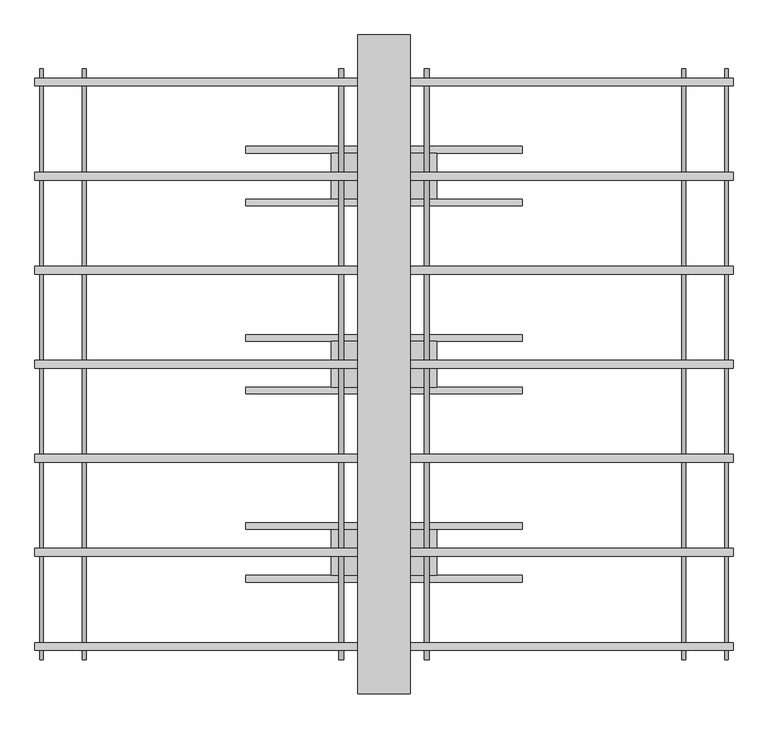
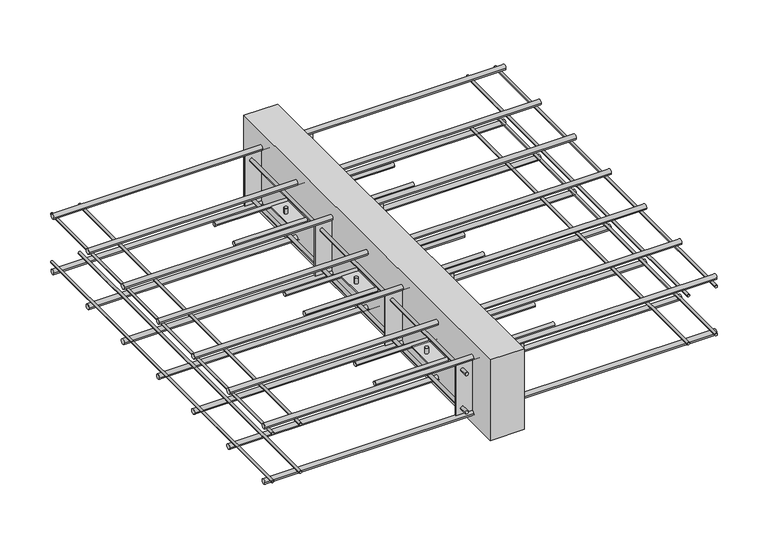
"""IFC4 building model written with IfcOpenShell, lengths in millimetres: fastener geometry, ACINOXplus_Typenreihe_M : ME+ S3."""

from ifc_helpers import new_model, si_unit, point, frame, frame_2d, origin, place, context, project, spatial, polyline, circle_curve, trimmed, segment, composite_curve, outline, extrude, source, transform, mapped, element, save
from ifc_brep_helpers import plane_surface, cylinder_surface, advanced_brep


def fastener_cb592778(model_context):
    return source(origin(), model_context, "Body", "SolidModel", [
        extrude(outline(composite_curve([segment(trimmed(circle_curve(frame_2d((-40.0, -104.5)), 5.0), [point((-45.0, -104.5))], [point((-35.0, -104.5))], False, "CARTESIAN"), True, "CONTINUOUS"), segment(trimmed(circle_curve(frame_2d((-40.0, -104.5)), 5.0), [point((-35.0, -104.5))], [point((-45.0, -104.5))], False, "CARTESIAN"), True, "CONTINUOUS")], self_intersect=False)), frame((-210.0, 0.0, 0.0), z_axis=(1.0, 0.0, 0.0), x_axis=(0.0, 1.0, 0.0)), (0.0, 0.0, 1.0), 420.0),
        extrude(outline(composite_curve([segment(trimmed(circle_curve(frame_2d((40.0, -104.5)), 5.0), [point((35.0, -104.5))], [point((45.0, -104.5))], False, "CARTESIAN"), True, "CONTINUOUS"), segment(trimmed(circle_curve(frame_2d((40.0, -104.5)), 5.0), [point((45.0, -104.5))], [point((35.0, -104.5))], False, "CARTESIAN"), True, "CONTINUOUS")], self_intersect=False)), frame((-210.0, 0.0, 0.0), z_axis=(1.0, 0.0, 0.0), x_axis=(0.0, 1.0, 0.0)), (0.0, 0.0, 1.0), 420.0),
        advanced_brep(
        [(-69.0, 0.0, -89.5), (-61.0, 0.0, -89.5), (61.0, 0.0, -89.5), (69.0, 0.0, -89.5), (-69.0, 0.0, -119.5), (-61.0, 0.0, -119.5), (61.0, 0.0, -119.5), (69.0, 0.0, -119.5), (-69.0, 0.0, -103.0), (-61.0, 0.0, -103.0), (-61.0, 0.0, -106.0), (-69.0, 0.0, -106.0), (61.0, 0.0, -103.0), (69.0, 0.0, -103.0), (69.0, 0.0, -106.0), (61.0, 0.0, -106.0), (80.0, 35.0, -103.0), (-80.0, 35.0, -103.0), (-80.0, -35.0, -103.0), (80.0, -35.0, -103.0), (80.0, 35.0, -106.0), (80.0, -35.0, -106.0), (-80.0, -35.0, -106.0), (-80.0, 35.0, -106.0)],
        [
            (0, 1, circle_curve(frame((-65.0, 0.0, -89.5), z_axis=(0.0, 0.0, 1.0), x_axis=(1.0, 0.0, 0.0)), 4.0)),
            (1, 0, circle_curve(frame((-65.0, 0.0, -89.5), z_axis=(0.0, 0.0, 1.0), x_axis=(1.0, 0.0, 0.0)), 4.0)),
            (2, 3, circle_curve(frame((65.0, 0.0, -89.5), z_axis=(0.0, 0.0, 1.0), x_axis=(1.0, 0.0, 0.0)), 4.0)),
            (3, 2, circle_curve(frame((65.0, 0.0, -89.5), z_axis=(0.0, 0.0, 1.0), x_axis=(1.0, 0.0, 0.0)), 4.0)),
            (4, 5, circle_curve(frame((-65.0, 0.0, -119.5), z_axis=(0.0, 0.0, -1.0), x_axis=(1.0, 0.0, 0.0)), 4.0)),
            (5, 4, circle_curve(frame((-65.0, 0.0, -119.5), z_axis=(0.0, 0.0, -1.0), x_axis=(1.0, 0.0, 0.0)), 4.0)),
            (6, 7, circle_curve(frame((65.0, 0.0, -119.5), z_axis=(0.0, 0.0, -1.0), x_axis=(1.0, 0.0, 0.0)), 4.0)),
            (7, 6, circle_curve(frame((65.0, 0.0, -119.5), z_axis=(0.0, 0.0, -1.0), x_axis=(1.0, 0.0, 0.0)), 4.0)),
            (0, 8),
            (8, 9, circle_curve(frame((-65.0, 0.0, -103.0), z_axis=(0.0, 0.0, 1.0), x_axis=(1.0, 0.0, 0.0)), 4.0)),
            (9, 1),
            (5, 10),
            (10, 11, circle_curve(frame((-65.0, 0.0, -106.0), z_axis=(0.0, 0.0, -1.0), x_axis=(1.0, 0.0, 0.0)), 4.0)),
            (11, 4),
            (9, 8, circle_curve(frame((-65.0, 0.0, -103.0), z_axis=(0.0, 0.0, 1.0), x_axis=(1.0, 0.0, 0.0)), 4.0)),
            (11, 10, circle_curve(frame((-65.0, 0.0, -106.0), z_axis=(0.0, 0.0, -1.0), x_axis=(1.0, 0.0, 0.0)), 4.0)),
            (2, 12),
            (12, 13, circle_curve(frame((65.0, 0.0, -103.0), z_axis=(0.0, 0.0, 1.0), x_axis=(1.0, 0.0, 0.0)), 4.0)),
            (13, 3),
            (7, 14),
            (14, 15, circle_curve(frame((65.0, 0.0, -106.0), z_axis=(0.0, 0.0, -1.0), x_axis=(1.0, 0.0, 0.0)), 4.0)),
            (15, 6),
            (13, 12, circle_curve(frame((65.0, 0.0, -103.0), z_axis=(0.0, 0.0, 1.0), x_axis=(1.0, 0.0, 0.0)), 4.0)),
            (15, 14, circle_curve(frame((65.0, 0.0, -106.0), z_axis=(0.0, 0.0, -1.0), x_axis=(1.0, 0.0, 0.0)), 4.0)),
            (16, 17),
            (17, 18),
            (18, 19),
            (19, 16),
            (20, 21),
            (21, 22),
            (22, 23),
            (23, 20),
            (16, 20),
            (23, 17),
            (22, 18),
            (21, 19),
        ],
        [
            plane_surface(frame((-61.0, 0.0, -89.5), z_axis=(0.0, 0.0, 1.0), x_axis=(0.0, 1.0, 0.0))),
            plane_surface(frame((-61.0, 0.0, -119.5), z_axis=(0.0, 0.0, -1.0), x_axis=(0.0, -1.0, 0.0))),
            cylinder_surface(frame((-65.0, 0.0, -119.5), z_axis=(0.0, 0.0, 1.0), x_axis=(1.0, 0.0, 0.0)), 4.0),
            cylinder_surface(frame((65.0, 0.0, -104.5), z_axis=(0.0, 0.0, 1.0), x_axis=(1.0, 0.0, 0.0)), 4.0),
            plane_surface(frame((-80.0, 35.0, -103.0), z_axis=(0.0, 0.0, 1.0), x_axis=(-1.0, 0.0, 0.0))),
            plane_surface(frame((-80.0, 35.0, -106.0), z_axis=(0.0, 0.0, -1.0), x_axis=(1.0, 0.0, 0.0))),
            plane_surface(frame((80.0, 35.0, -103.0), z_axis=(0.0, 1.0, 0.0), x_axis=(0.0, 0.0, -1.0))),
            plane_surface(frame((-80.0, 35.0, -103.0), z_axis=(-1.0, 0.0, 0.0), x_axis=(0.0, 0.0, -1.0))),
            plane_surface(frame((-80.0, -35.0, -103.0), z_axis=(0.0, -1.0, 0.0), x_axis=(0.0, 0.0, -1.0))),
            plane_surface(frame((80.0, -35.0, -103.0), z_axis=(1.0, 0.0, 0.0), x_axis=(0.0, 0.0, -1.0))),
        ],
        [
            (0, [[1, 2]]),
            (0, [[3, 4]]),
            (1, [[5, 6]]),
            (1, [[7, 8]]),
            (2, [[-1, 9, 10, 11]]),
            (2, [[-6, 12, 13, 14]]),
            (2, [[-2, -11, 15, -9]]),
            (2, [[-5, -14, 16, -12]]),
            (3, [[-3, 17, 18, 19]]),
            (3, [[-8, 20, 21, 22]]),
            (3, [[-4, -19, 23, -17]]),
            (3, [[-7, -22, 24, -20]]),
            (4, [[25, 26, 27, 28], [-10, -15], [-18, -23]]),
            (5, [[29, 30, 31, 32], [-13, -16], [-21, -24]]),
            (6, [[-25, 33, -32, 34]]),
            (7, [[-26, -34, -31, 35]]),
            (8, [[-27, -35, -30, 36]]),
            (9, [[-28, -36, -29, -33]]),
        ],
    ),
        extrude(outline(composite_curve([segment(trimmed(circle_curve(frame_2d((-325.7142857, -104.5)), 5.0), [point((-330.7142857, -104.5))], [point((-320.7142857, -104.5))], False, "CARTESIAN"), True, "CONTINUOUS"), segment(trimmed(circle_curve(frame_2d((-325.7142857, -104.5)), 5.0), [point((-320.7142857, -104.5))], [point((-330.7142857, -104.5))], False, "CARTESIAN"), True, "CONTINUOUS")], self_intersect=False)), frame((-210.0, 0.0, 0.0), z_axis=(1.0, 0.0, 0.0), x_axis=(0.0, 1.0, 0.0)), (0.0, 0.0, 1.0), 420.0),
        extrude(outline(composite_curve([segment(trimmed(circle_curve(frame_2d((-245.7142857, -104.5)), 5.0), [point((-250.7142857, -104.5))], [point((-240.7142857, -104.5))], False, "CARTESIAN"), True, "CONTINUOUS"), segment(trimmed(circle_curve(frame_2d((-245.7142857, -104.5)), 5.0), [point((-240.7142857, -104.5))], [point((-250.7142857, -104.5))], False, "CARTESIAN"), True, "CONTINUOUS")], self_intersect=False)), frame((-210.0, 0.0, 0.0), z_axis=(1.0, 0.0, 0.0), x_axis=(0.0, 1.0, 0.0)), (0.0, 0.0, 1.0), 420.0),
        advanced_brep(
        [(-69.0, -285.7142857, -89.5), (-61.0, -285.7142857, -89.5), (61.0, -285.7142857, -89.5), (69.0, -285.7142857, -89.5), (-69.0, -285.7142857, -119.5), (-61.0, -285.7142857, -119.5), (61.0, -285.7142857, -119.5), (69.0, -285.7142857, -119.5), (-69.0, -285.7142857, -103.0), (-61.0, -285.7142857, -103.0), (-61.0, -285.7142857, -106.0), (-69.0, -285.7142857, -106.0), (61.0, -285.7142857, -103.0), (69.0, -285.7142857, -103.0), (69.0, -285.7142857, -106.0), (61.0, -285.7142857, -106.0), (80.0, -250.7142857, -103.0), (-80.0, -250.7142857, -103.0), (-80.0, -320.7142857, -103.0), (80.0, -320.7142857, -103.0), (80.0, -250.7142857, -106.0), (80.0, -320.7142857, -106.0), (-80.0, -320.7142857, -106.0), (-80.0, -250.7142857, -106.0)],
        [
            (0, 1, circle_curve(frame((-65.0, -285.7142857, -89.5), z_axis=(0.0, 0.0, 1.0), x_axis=(1.0, 0.0, 0.0)), 4.0)),
            (1, 0, circle_curve(frame((-65.0, -285.7142857, -89.5), z_axis=(0.0, 0.0, 1.0), x_axis=(1.0, 0.0, 0.0)), 4.0)),
            (2, 3, circle_curve(frame((65.0, -285.7142857, -89.5), z_axis=(0.0, 0.0, 1.0), x_axis=(1.0, 0.0, 0.0)), 4.0)),
            (3, 2, circle_curve(frame((65.0, -285.7142857, -89.5), z_axis=(0.0, 0.0, 1.0), x_axis=(1.0, 0.0, 0.0)), 4.0)),
            (4, 5, circle_curve(frame((-65.0, -285.7142857, -119.5), z_axis=(0.0, 0.0, -1.0), x_axis=(1.0, 0.0, 0.0)), 4.0)),
            (5, 4, circle_curve(frame((-65.0, -285.7142857, -119.5), z_axis=(0.0, 0.0, -1.0), x_axis=(1.0, 0.0, 0.0)), 4.0)),
            (6, 7, circle_curve(frame((65.0, -285.7142857, -119.5), z_axis=(0.0, 0.0, -1.0), x_axis=(1.0, 0.0, 0.0)), 4.0)),
            (7, 6, circle_curve(frame((65.0, -285.7142857, -119.5), z_axis=(0.0, 0.0, -1.0), x_axis=(1.0, 0.0, 0.0)), 4.0)),
            (0, 8),
            (8, 9, circle_curve(frame((-65.0, -285.7142857, -103.0), z_axis=(0.0, 0.0, 1.0), x_axis=(1.0, 0.0, 0.0)), 4.0)),
            (9, 1),
            (5, 10),
            (10, 11, circle_curve(frame((-65.0, -285.7142857, -106.0), z_axis=(0.0, 0.0, -1.0), x_axis=(1.0, 0.0, 0.0)), 4.0)),
            (11, 4),
            (9, 8, circle_curve(frame((-65.0, -285.7142857, -103.0), z_axis=(0.0, 0.0, 1.0), x_axis=(1.0, 0.0, 0.0)), 4.0)),
            (11, 10, circle_curve(frame((-65.0, -285.7142857, -106.0), z_axis=(0.0, 0.0, -1.0), x_axis=(1.0, 0.0, 0.0)), 4.0)),
            (2, 12),
            (12, 13, circle_curve(frame((65.0, -285.7142857, -103.0), z_axis=(0.0, 0.0, 1.0), x_axis=(1.0, 0.0, 0.0)), 4.0)),
            (13, 3),
            (7, 14),
            (14, 15, circle_curve(frame((65.0, -285.7142857, -106.0), z_axis=(0.0, 0.0, -1.0), x_axis=(1.0, 0.0, 0.0)), 4.0)),
            (15, 6),
            (13, 12, circle_curve(frame((65.0, -285.7142857, -103.0), z_axis=(0.0, 0.0, 1.0), x_axis=(1.0, 0.0, 0.0)), 4.0)),
            (15, 14, circle_curve(frame((65.0, -285.7142857, -106.0), z_axis=(0.0, 0.0, -1.0), x_axis=(1.0, 0.0, 0.0)), 4.0)),
            (16, 17),
            (17, 18),
            (18, 19),
            (19, 16),
            (20, 21),
            (21, 22),
            (22, 23),
            (23, 20),
            (16, 20),
            (23, 17),
            (22, 18),
            (21, 19),
        ],
        [
            plane_surface(frame((-61.0, -285.7142857, -89.5), z_axis=(0.0, 0.0, 1.0), x_axis=(0.0, 1.0, 0.0))),
            plane_surface(frame((-61.0, -285.7142857, -119.5), z_axis=(0.0, 0.0, -1.0), x_axis=(0.0, -1.0, 0.0))),
            cylinder_surface(frame((-65.0, -285.7142857, -119.5), z_axis=(0.0, 0.0, 1.0), x_axis=(1.0, 0.0, 0.0)), 4.0),
            cylinder_surface(frame((65.0, -285.7142857, -104.5), z_axis=(0.0, 0.0, 1.0), x_axis=(1.0, 0.0, 0.0)), 4.0),
            plane_surface(frame((-80.0, -250.7142857, -103.0), z_axis=(0.0, 0.0, 1.0), x_axis=(-1.0, 0.0, 0.0))),
            plane_surface(frame((-80.0, -250.7142857, -106.0), z_axis=(0.0, 0.0, -1.0), x_axis=(1.0, 0.0, 0.0))),
            plane_surface(frame((80.0, -250.7142857, -103.0), z_axis=(0.0, 1.0, 0.0), x_axis=(0.0, 0.0, -1.0))),
            plane_surface(frame((-80.0, -250.7142857, -103.0), z_axis=(-1.0, 0.0, 0.0), x_axis=(0.0, 0.0, -1.0))),
            plane_surface(frame((-80.0, -320.7142857, -103.0), z_axis=(0.0, -1.0, 0.0), x_axis=(0.0, 0.0, -1.0))),
            plane_surface(frame((80.0, -320.7142857, -103.0), z_axis=(1.0, 0.0, 0.0), x_axis=(0.0, 0.0, -1.0))),
        ],
        [
            (0, [[1, 2]]),
            (0, [[3, 4]]),
            (1, [[5, 6]]),
            (1, [[7, 8]]),
            (2, [[-1, 9, 10, 11]]),
            (2, [[-6, 12, 13, 14]]),
            (2, [[-2, -11, 15, -9]]),
            (2, [[-5, -14, 16, -12]]),
            (3, [[-3, 17, 18, 19]]),
            (3, [[-8, 20, 21, 22]]),
            (3, [[-4, -19, 23, -17]]),
            (3, [[-7, -22, 24, -20]]),
            (4, [[25, 26, 27, 28], [-10, -15], [-18, -23]]),
            (5, [[29, 30, 31, 32], [-13, -16], [-21, -24]]),
            (6, [[-25, 33, -32, 34]]),
            (7, [[-26, -34, -31, 35]]),
            (8, [[-27, -35, -30, 36]]),
            (9, [[-28, -36, -29, -33]]),
        ],
    ),
        extrude(outline(composite_curve([segment(trimmed(circle_curve(frame_2d((245.7142857, -104.5)), 5.0), [point((240.7142857, -104.5))], [point((250.7142857, -104.5))], False, "CARTESIAN"), True, "CONTINUOUS"), segment(trimmed(circle_curve(frame_2d((245.7142857, -104.5)), 5.0), [point((250.7142857, -104.5))], [point((240.7142857, -104.5))], False, "CARTESIAN"), True, "CONTINUOUS")], self_intersect=False)), frame((-210.0, 0.0, 0.0), z_axis=(1.0, 0.0, 0.0), x_axis=(0.0, 1.0, 0.0)), (0.0, 0.0, 1.0), 420.0),
        extrude(outline(composite_curve([segment(trimmed(circle_curve(frame_2d((325.7142857, -104.5)), 5.0), [point((320.7142857, -104.5))], [point((330.7142857, -104.5))], False, "CARTESIAN"), True, "CONTINUOUS"), segment(trimmed(circle_curve(frame_2d((325.7142857, -104.5)), 5.0), [point((330.7142857, -104.5))], [point((320.7142857, -104.5))], False, "CARTESIAN"), True, "CONTINUOUS")], self_intersect=False)), frame((-210.0, 0.0, 0.0), z_axis=(1.0, 0.0, 0.0), x_axis=(0.0, 1.0, 0.0)), (0.0, 0.0, 1.0), 420.0),
        advanced_brep(
        [(-69.0, 285.7142857, -89.5), (-61.0, 285.7142857, -89.5), (61.0, 285.7142857, -89.5), (69.0, 285.7142857, -89.5), (-69.0, 285.7142857, -119.5), (-61.0, 285.7142857, -119.5), (61.0, 285.7142857, -119.5), (69.0, 285.7142857, -119.5), (-69.0, 285.7142857, -103.0), (-61.0, 285.7142857, -103.0), (-61.0, 285.7142857, -106.0), (-69.0, 285.7142857, -106.0), (61.0, 285.7142857, -103.0), (69.0, 285.7142857, -103.0), (69.0, 285.7142857, -106.0), (61.0, 285.7142857, -106.0), (80.0, 320.7142857, -103.0), (-80.0, 320.7142857, -103.0), (-80.0, 250.7142857, -103.0), (80.0, 250.7142857, -103.0), (80.0, 320.7142857, -106.0), (80.0, 250.7142857, -106.0), (-80.0, 250.7142857, -106.0), (-80.0, 320.7142857, -106.0)],
        [
            (0, 1, circle_curve(frame((-65.0, 285.7142857, -89.5), z_axis=(0.0, 0.0, 1.0), x_axis=(1.0, 0.0, 0.0)), 4.0)),
            (1, 0, circle_curve(frame((-65.0, 285.7142857, -89.5), z_axis=(0.0, 0.0, 1.0), x_axis=(1.0, 0.0, 0.0)), 4.0)),
            (2, 3, circle_curve(frame((65.0, 285.7142857, -89.5), z_axis=(0.0, 0.0, 1.0), x_axis=(1.0, 0.0, 0.0)), 4.0)),
            (3, 2, circle_curve(frame((65.0, 285.7142857, -89.5), z_axis=(0.0, 0.0, 1.0), x_axis=(1.0, 0.0, 0.0)), 4.0)),
            (4, 5, circle_curve(frame((-65.0, 285.7142857, -119.5), z_axis=(0.0, 0.0, -1.0), x_axis=(1.0, 0.0, 0.0)), 4.0)),
            (5, 4, circle_curve(frame((-65.0, 285.7142857, -119.5), z_axis=(0.0, 0.0, -1.0), x_axis=(1.0, 0.0, 0.0)), 4.0)),
            (6, 7, circle_curve(frame((65.0, 285.7142857, -119.5), z_axis=(0.0, 0.0, -1.0), x_axis=(1.0, 0.0, 0.0)), 4.0)),
            (7, 6, circle_curve(frame((65.0, 285.7142857, -119.5), z_axis=(0.0, 0.0, -1.0), x_axis=(1.0, 0.0, 0.0)), 4.0)),
            (0, 8),
            (8, 9, circle_curve(frame((-65.0, 285.7142857, -103.0), z_axis=(0.0, 0.0, 1.0), x_axis=(1.0, 0.0, 0.0)), 4.0)),
            (9, 1),
            (5, 10),
            (10, 11, circle_curve(frame((-65.0, 285.7142857, -106.0), z_axis=(0.0, 0.0, -1.0), x_axis=(1.0, 0.0, 0.0)), 4.0)),
            (11, 4),
            (9, 8, circle_curve(frame((-65.0, 285.7142857, -103.0), z_axis=(0.0, 0.0, 1.0), x_axis=(1.0, 0.0, 0.0)), 4.0)),
            (11, 10, circle_curve(frame((-65.0, 285.7142857, -106.0), z_axis=(0.0, 0.0, -1.0), x_axis=(1.0, 0.0, 0.0)), 4.0)),
            (2, 12),
            (12, 13, circle_curve(frame((65.0, 285.7142857, -103.0), z_axis=(0.0, 0.0, 1.0), x_axis=(1.0, 0.0, 0.0)), 4.0)),
            (13, 3),
            (7, 14),
            (14, 15, circle_curve(frame((65.0, 285.7142857, -106.0), z_axis=(0.0, 0.0, -1.0), x_axis=(1.0, 0.0, 0.0)), 4.0)),
            (15, 6),
            (13, 12, circle_curve(frame((65.0, 285.7142857, -103.0), z_axis=(0.0, 0.0, 1.0), x_axis=(1.0, 0.0, 0.0)), 4.0)),
            (15, 14, circle_curve(frame((65.0, 285.7142857, -106.0), z_axis=(0.0, 0.0, -1.0), x_axis=(1.0, 0.0, 0.0)), 4.0)),
            (16, 17),
            (17, 18),
            (18, 19),
            (19, 16),
            (20, 21),
            (21, 22),
            (22, 23),
            (23, 20),
            (16, 20),
            (23, 17),
            (22, 18),
            (21, 19),
        ],
        [
            plane_surface(frame((-61.0, 285.7142857, -89.5), z_axis=(0.0, 0.0, 1.0), x_axis=(0.0, 1.0, 0.0))),
            plane_surface(frame((-61.0, 285.7142857, -119.5), z_axis=(0.0, 0.0, -1.0), x_axis=(0.0, -1.0, 0.0))),
            cylinder_surface(frame((-65.0, 285.7142857, -119.5), z_axis=(0.0, 0.0, 1.0), x_axis=(1.0, 0.0, 0.0)), 4.0),
            cylinder_surface(frame((65.0, 285.7142857, -104.5), z_axis=(0.0, 0.0, 1.0), x_axis=(1.0, 0.0, 0.0)), 4.0),
            plane_surface(frame((-80.0, 320.7142857, -103.0), z_axis=(0.0, 0.0, 1.0), x_axis=(-1.0, 0.0, 0.0))),
            plane_surface(frame((-80.0, 320.7142857, -106.0), z_axis=(0.0, 0.0, -1.0), x_axis=(1.0, 0.0, 0.0))),
            plane_surface(frame((80.0, 320.7142857, -103.0), z_axis=(0.0, 1.0, 0.0), x_axis=(0.0, 0.0, -1.0))),
            plane_surface(frame((-80.0, 320.7142857, -103.0), z_axis=(-1.0, 0.0, 0.0), x_axis=(0.0, 0.0, -1.0))),
            plane_surface(frame((-80.0, 250.7142857, -103.0), z_axis=(0.0, -1.0, 0.0), x_axis=(0.0, 0.0, -1.0))),
            plane_surface(frame((80.0, 250.7142857, -103.0), z_axis=(1.0, 0.0, 0.0), x_axis=(0.0, 0.0, -1.0))),
        ],
        [
            (0, [[1, 2]]),
            (0, [[3, 4]]),
            (1, [[5, 6]]),
            (1, [[7, 8]]),
            (2, [[-1, 9, 10, 11]]),
            (2, [[-6, 12, 13, 14]]),
            (2, [[-2, -11, 15, -9]]),
            (2, [[-5, -14, 16, -12]]),
            (3, [[-3, 17, 18, 19]]),
            (3, [[-8, 20, 21, 22]]),
            (3, [[-4, -19, 23, -17]]),
            (3, [[-7, -22, 24, -20]]),
            (4, [[25, 26, 27, 28], [-10, -15], [-18, -23]]),
            (5, [[29, 30, 31, 32], [-13, -16], [-21, -24]]),
            (6, [[-25, 33, -32, 34]]),
            (7, [[-26, -34, -31, 35]]),
            (8, [[-27, -35, -30, 36]]),
            (9, [[-28, -36, -29, -33]]),
        ],
    ),
        extrude(outline(polyline([(40.0, 500.0), (40.0, -500.0), (-40.0, -500.0), (-40.0, 500.0), (40.0, 500.0)])), frame((0.0, 0.0, -200.0), z_axis=(0.0, 0.0, 1.0), x_axis=(1.0, 0.0, 0.0)), (0.0, 0.0, 1.0), 200.0),
        extrude(outline(polyline([(80.0, -141.3571429), (80.0, -144.3571429), (-80.0, -144.3571429), (-80.0, -141.3571429), (80.0, -141.3571429)])), frame((0.0, 0.0, -167.0), z_axis=(0.0, 0.0, 1.0), x_axis=(1.0, 0.0, 0.0)), (0.0, 0.0, 1.0), 125.0),
        extrude(outline(polyline([(80.0, 144.3571429), (80.0, 141.3571429), (-80.0, 141.3571429), (-80.0, 144.3571429), (80.0, 144.3571429)])), frame((0.0, 0.0, -167.0), z_axis=(0.0, 0.0, 1.0), x_axis=(1.0, 0.0, 0.0)), (0.0, 0.0, 1.0), 125.0),
        extrude(outline(polyline([(80.0, -427.0714286), (80.0, -430.0714286), (-80.0, -430.0714286), (-80.0, -427.0714286), (80.0, -427.0714286)])), frame((0.0, 0.0, -167.0), z_axis=(0.0, 0.0, 1.0), x_axis=(1.0, 0.0, 0.0)), (0.0, 0.0, 1.0), 125.0),
        extrude(outline(polyline([(80.0, 430.0714286), (80.0, 427.0714286), (-80.0, 427.0714286), (-80.0, 430.0714286), (80.0, 430.0714286)])), frame((0.0, 0.0, -167.0), z_axis=(0.0, 0.0, 1.0), x_axis=(1.0, 0.0, 0.0)), (0.0, 0.0, 1.0), 125.0),
        extrude(outline(composite_curve([segment(trimmed(circle_curve(frame_2d((-152.0, -65.0)), 4.0), [point((-152.0, -61.0))], [point((-152.0, -69.0))], False, "CARTESIAN"), True, "CONTINUOUS"), segment(trimmed(circle_curve(frame_2d((-152.0, -65.0)), 4.0), [point((-152.0, -69.0))], [point((-152.0, -61.0))], False, "CARTESIAN"), True, "CONTINUOUS")], self_intersect=False)), frame((0.0, -448.5714286, 0.0), z_axis=(0.0, 1.0, 0.0), x_axis=(0.0, 0.0, 1.0)), (0.0, 0.0, 1.0), 18.5),
        extrude(outline(composite_curve([segment(trimmed(circle_curve(frame_2d((-152.0, -65.0)), 4.0), [point((-152.0, -69.0))], [point((-152.0, -61.0))], False, "CARTESIAN"), True, "CONTINUOUS"), segment(trimmed(circle_curve(frame_2d((-152.0, -65.0)), 4.0), [point((-152.0, -61.0))], [point((-152.0, -69.0))], False, "CARTESIAN"), True, "CONTINUOUS")], self_intersect=False)), frame((0.0, -427.0714286, 0.0), z_axis=(0.0, 1.0, 0.0), x_axis=(0.0, 0.0, 1.0)), (0.0, 0.0, 1.0), 568.4285714),
        extrude(outline(composite_curve([segment(trimmed(circle_curve(frame_2d((-152.0, -65.0)), 4.0), [point((-152.0, -69.0))], [point((-152.0, -61.0))], False, "CARTESIAN"), True, "CONTINUOUS"), segment(trimmed(circle_curve(frame_2d((-152.0, -65.0)), 4.0), [point((-152.0, -61.0))], [point((-152.0, -69.0))], False, "CARTESIAN"), True, "CONTINUOUS")], self_intersect=False)), frame((0.0, 430.0714286, 0.0), z_axis=(0.0, 1.0, 0.0), x_axis=(0.0, 0.0, 1.0)), (0.0, 0.0, 1.0), 18.5),
        extrude(outline(composite_curve([segment(trimmed(circle_curve(frame_2d((-152.0, -65.0)), 4.0), [point((-152.0, -69.0))], [point((-152.0, -61.0))], False, "CARTESIAN"), True, "CONTINUOUS"), segment(trimmed(circle_curve(frame_2d((-152.0, -65.0)), 4.0), [point((-152.0, -61.0))], [point((-152.0, -69.0))], False, "CARTESIAN"), True, "CONTINUOUS")], self_intersect=False)), frame((0.0, 144.3571429, 0.0), z_axis=(0.0, 1.0, 0.0), x_axis=(0.0, 0.0, 1.0)), (0.0, 0.0, 1.0), 282.7142857),
        extrude(outline(composite_curve([segment(trimmed(circle_curve(frame_2d((-152.0, 65.0)), 4.0), [point((-152.0, 69.0))], [point((-152.0, 61.0))], False, "CARTESIAN"), True, "CONTINUOUS"), segment(trimmed(circle_curve(frame_2d((-152.0, 65.0)), 4.0), [point((-152.0, 61.0))], [point((-152.0, 69.0))], False, "CARTESIAN"), True, "CONTINUOUS")], self_intersect=False)), frame((0.0, -448.5714286, 0.0), z_axis=(0.0, 1.0, 0.0), x_axis=(0.0, 0.0, 1.0)), (0.0, 0.0, 1.0), 18.5),
        extrude(outline(composite_curve([segment(trimmed(circle_curve(frame_2d((-152.0, 65.0)), 4.0), [point((-152.0, 61.0))], [point((-152.0, 69.0))], False, "CARTESIAN"), True, "CONTINUOUS"), segment(trimmed(circle_curve(frame_2d((-152.0, 65.0)), 4.0), [point((-152.0, 69.0))], [point((-152.0, 61.0))], False, "CARTESIAN"), True, "CONTINUOUS")], self_intersect=False)), frame((0.0, -427.0714286, 0.0), z_axis=(0.0, 1.0, 0.0), x_axis=(0.0, 0.0, 1.0)), (0.0, 0.0, 1.0), 568.4285714),
        extrude(outline(composite_curve([segment(trimmed(circle_curve(frame_2d((-152.0, 65.0)), 4.0), [point((-152.0, 61.0))], [point((-152.0, 69.0))], False, "CARTESIAN"), True, "CONTINUOUS"), segment(trimmed(circle_curve(frame_2d((-152.0, 65.0)), 4.0), [point((-152.0, 69.0))], [point((-152.0, 61.0))], False, "CARTESIAN"), True, "CONTINUOUS")], self_intersect=False)), frame((0.0, 430.0714286, 0.0), z_axis=(0.0, 1.0, 0.0), x_axis=(0.0, 0.0, 1.0)), (0.0, 0.0, 1.0), 18.5),
        extrude(outline(composite_curve([segment(trimmed(circle_curve(frame_2d((-152.0, 65.0)), 4.0), [point((-152.0, 61.0))], [point((-152.0, 69.0))], False, "CARTESIAN"), True, "CONTINUOUS"), segment(trimmed(circle_curve(frame_2d((-152.0, 65.0)), 4.0), [point((-152.0, 69.0))], [point((-152.0, 61.0))], False, "CARTESIAN"), True, "CONTINUOUS")], self_intersect=False)), frame((0.0, 144.3571429, 0.0), z_axis=(0.0, 1.0, 0.0), x_axis=(0.0, 0.0, 1.0)), (0.0, 0.0, 1.0), 282.7142857),
        extrude(outline(composite_curve([segment(trimmed(circle_curve(frame_2d((-57.0, -65.0)), 4.0), [point((-57.0, -61.0))], [point((-57.0, -69.0))], False, "CARTESIAN"), True, "CONTINUOUS"), segment(trimmed(circle_curve(frame_2d((-57.0, -65.0)), 4.0), [point((-57.0, -69.0))], [point((-57.0, -61.0))], False, "CARTESIAN"), True, "CONTINUOUS")], self_intersect=False)), frame((0.0, -448.5714286, 0.0), z_axis=(0.0, 1.0, 0.0), x_axis=(0.0, 0.0, 1.0)), (0.0, 0.0, 1.0), 18.5),
        extrude(outline(composite_curve([segment(trimmed(circle_curve(frame_2d((-57.0, -65.0)), 4.0), [point((-57.0, -69.0))], [point((-57.0, -61.0))], False, "CARTESIAN"), True, "CONTINUOUS"), segment(trimmed(circle_curve(frame_2d((-57.0, -65.0)), 4.0), [point((-57.0, -61.0))], [point((-57.0, -69.0))], False, "CARTESIAN"), True, "CONTINUOUS")], self_intersect=False)), frame((0.0, -427.0714286, 0.0), z_axis=(0.0, 1.0, 0.0), x_axis=(0.0, 0.0, 1.0)), (0.0, 0.0, 1.0), 568.4285714),
        extrude(outline(composite_curve([segment(trimmed(circle_curve(frame_2d((-57.0, -65.0)), 4.0), [point((-57.0, -69.0))], [point((-57.0, -61.0))], False, "CARTESIAN"), True, "CONTINUOUS"), segment(trimmed(circle_curve(frame_2d((-57.0, -65.0)), 4.0), [point((-57.0, -61.0))], [point((-57.0, -69.0))], False, "CARTESIAN"), True, "CONTINUOUS")], self_intersect=False)), frame((0.0, 430.0714286, 0.0), z_axis=(0.0, 1.0, 0.0), x_axis=(0.0, 0.0, 1.0)), (0.0, 0.0, 1.0), 18.5),
        extrude(outline(composite_curve([segment(trimmed(circle_curve(frame_2d((-57.0, -65.0)), 4.0), [point((-57.0, -69.0))], [point((-57.0, -61.0))], False, "CARTESIAN"), True, "CONTINUOUS"), segment(trimmed(circle_curve(frame_2d((-57.0, -65.0)), 4.0), [point((-57.0, -61.0))], [point((-57.0, -69.0))], False, "CARTESIAN"), True, "CONTINUOUS")], self_intersect=False)), frame((0.0, 144.3571429, 0.0), z_axis=(0.0, 1.0, 0.0), x_axis=(0.0, 0.0, 1.0)), (0.0, 0.0, 1.0), 282.7142857),
        extrude(outline(composite_curve([segment(trimmed(circle_curve(frame_2d((-57.0, 65.0)), 4.0), [point((-57.0, 69.0))], [point((-57.0, 61.0))], False, "CARTESIAN"), True, "CONTINUOUS"), segment(trimmed(circle_curve(frame_2d((-57.0, 65.0)), 4.0), [point((-57.0, 61.0))], [point((-57.0, 69.0))], False, "CARTESIAN"), True, "CONTINUOUS")], self_intersect=False)), frame((0.0, -448.5714286, 0.0), z_axis=(0.0, 1.0, 0.0), x_axis=(0.0, 0.0, 1.0)), (0.0, 0.0, 1.0), 18.5),
        extrude(outline(composite_curve([segment(trimmed(circle_curve(frame_2d((-57.0, 65.0)), 4.0), [point((-57.0, 61.0))], [point((-57.0, 69.0))], False, "CARTESIAN"), True, "CONTINUOUS"), segment(trimmed(circle_curve(frame_2d((-57.0, 65.0)), 4.0), [point((-57.0, 69.0))], [point((-57.0, 61.0))], False, "CARTESIAN"), True, "CONTINUOUS")], self_intersect=False)), frame((0.0, -427.0714286, 0.0), z_axis=(0.0, 1.0, 0.0), x_axis=(0.0, 0.0, 1.0)), (0.0, 0.0, 1.0), 568.4285714),
        extrude(outline(composite_curve([segment(trimmed(circle_curve(frame_2d((-57.0, 65.0)), 4.0), [point((-57.0, 61.0))], [point((-57.0, 69.0))], False, "CARTESIAN"), True, "CONTINUOUS"), segment(trimmed(circle_curve(frame_2d((-57.0, 65.0)), 4.0), [point((-57.0, 69.0))], [point((-57.0, 61.0))], False, "CARTESIAN"), True, "CONTINUOUS")], self_intersect=False)), frame((0.0, 430.0714286, 0.0), z_axis=(0.0, 1.0, 0.0), x_axis=(0.0, 0.0, 1.0)), (0.0, 0.0, 1.0), 18.5),
        extrude(outline(composite_curve([segment(trimmed(circle_curve(frame_2d((-57.0, 65.0)), 4.0), [point((-57.0, 61.0))], [point((-57.0, 69.0))], False, "CARTESIAN"), True, "CONTINUOUS"), segment(trimmed(circle_curve(frame_2d((-57.0, 65.0)), 4.0), [point((-57.0, 69.0))], [point((-57.0, 61.0))], False, "CARTESIAN"), True, "CONTINUOUS")], self_intersect=False)), frame((0.0, 144.3571429, 0.0), z_axis=(0.0, 1.0, 0.0), x_axis=(0.0, 0.0, 1.0)), (0.0, 0.0, 1.0), 282.7142857),
        extrude(outline(composite_curve([segment(trimmed(circle_curve(frame_2d((142.8571429, -173.0)), 6.0), [point((136.8571429, -173.0))], [point((148.8571429, -173.0))], False, "CARTESIAN"), True, "CONTINUOUS"), segment(trimmed(circle_curve(frame_2d((142.8571429, -173.0)), 6.0), [point((148.8571429, -173.0))], [point((136.8571429, -173.0))], False, "CARTESIAN"), True, "CONTINUOUS")], self_intersect=False)), frame((-530.0, 0.0, 0.0), z_axis=(1.0, 0.0, 0.0), x_axis=(0.0, 1.0, 0.0)), (0.0, 0.0, 1.0), 1060.0),
        extrude(outline(composite_curve([segment(trimmed(circle_curve(frame_2d((0.0, -173.0)), 6.0), [point((-6.0, -173.0))], [point((6.0, -173.0))], False, "CARTESIAN"), True, "CONTINUOUS"), segment(trimmed(circle_curve(frame_2d((0.0, -173.0)), 6.0), [point((6.0, -173.0))], [point((-6.0, -173.0))], False, "CARTESIAN"), True, "CONTINUOUS")], self_intersect=False)), frame((-530.0, 0.0, 0.0), z_axis=(1.0, 0.0, 0.0), x_axis=(0.0, 1.0, 0.0)), (0.0, 0.0, 1.0), 1060.0),
        extrude(outline(composite_curve([segment(trimmed(circle_curve(frame_2d((-142.8571429, -173.0)), 6.0), [point((-148.8571429, -173.0))], [point((-136.8571429, -173.0))], False, "CARTESIAN"), True, "CONTINUOUS"), segment(trimmed(circle_curve(frame_2d((-142.8571429, -173.0)), 6.0), [point((-136.8571429, -173.0))], [point((-148.8571429, -173.0))], False, "CARTESIAN"), True, "CONTINUOUS")], self_intersect=False)), frame((-530.0, 0.0, 0.0), z_axis=(1.0, 0.0, 0.0), x_axis=(0.0, 1.0, 0.0)), (0.0, 0.0, 1.0), 1060.0),
        extrude(outline(composite_curve([segment(trimmed(circle_curve(frame_2d((285.7142857, -173.0)), 6.0), [point((279.7142857, -173.0))], [point((291.7142857, -173.0))], False, "CARTESIAN"), True, "CONTINUOUS"), segment(trimmed(circle_curve(frame_2d((285.7142857, -173.0)), 6.0), [point((291.7142857, -173.0))], [point((279.7142857, -173.0))], False, "CARTESIAN"), True, "CONTINUOUS")], self_intersect=False)), frame((-530.0, 0.0, 0.0), z_axis=(1.0, 0.0, 0.0), x_axis=(0.0, 1.0, 0.0)), (0.0, 0.0, 1.0), 1060.0),
        extrude(outline(composite_curve([segment(trimmed(circle_curve(frame_2d((428.5714286, -173.0)), 6.0), [point((422.5714286, -173.0))], [point((434.5714286, -173.0))], False, "CARTESIAN"), True, "CONTINUOUS"), segment(trimmed(circle_curve(frame_2d((428.5714286, -173.0)), 6.0), [point((434.5714286, -173.0))], [point((422.5714286, -173.0))], False, "CARTESIAN"), True, "CONTINUOUS")], self_intersect=False)), frame((-530.0, 0.0, 0.0), z_axis=(1.0, 0.0, 0.0), x_axis=(0.0, 1.0, 0.0)), (0.0, 0.0, 1.0), 1060.0),
        extrude(outline(composite_curve([segment(trimmed(circle_curve(frame_2d((-285.7142857, -173.0)), 6.0), [point((-291.7142857, -173.0))], [point((-279.7142857, -173.0))], False, "CARTESIAN"), True, "CONTINUOUS"), segment(trimmed(circle_curve(frame_2d((-285.7142857, -173.0)), 6.0), [point((-279.7142857, -173.0))], [point((-291.7142857, -173.0))], False, "CARTESIAN"), True, "CONTINUOUS")], self_intersect=False)), frame((-530.0, 0.0, 0.0), z_axis=(1.0, 0.0, 0.0), x_axis=(0.0, 1.0, 0.0)), (0.0, 0.0, 1.0), 1060.0),
        extrude(outline(composite_curve([segment(trimmed(circle_curve(frame_2d((-428.5714286, -173.0)), 6.0), [point((-434.5714286, -173.0))], [point((-422.5714286, -173.0))], False, "CARTESIAN"), True, "CONTINUOUS"), segment(trimmed(circle_curve(frame_2d((-428.5714286, -173.0)), 6.0), [point((-422.5714286, -173.0))], [point((-434.5714286, -173.0))], False, "CARTESIAN"), True, "CONTINUOUS")], self_intersect=False)), frame((-530.0, 0.0, 0.0), z_axis=(1.0, 0.0, 0.0), x_axis=(0.0, 1.0, 0.0)), (0.0, 0.0, 1.0), 1060.0),
        extrude(outline(composite_curve([segment(trimmed(circle_curve(frame_2d((142.8571429, -36.0)), 6.0), [point((136.8571429, -36.0))], [point((148.8571429, -36.0))], False, "CARTESIAN"), True, "CONTINUOUS"), segment(trimmed(circle_curve(frame_2d((142.8571429, -36.0)), 6.0), [point((148.8571429, -36.0))], [point((136.8571429, -36.0))], False, "CARTESIAN"), True, "CONTINUOUS")], self_intersect=False)), frame((-530.0, 0.0, 0.0), z_axis=(1.0, 0.0, 0.0), x_axis=(0.0, 1.0, 0.0)), (0.0, 0.0, 1.0), 1060.0),
        extrude(outline(composite_curve([segment(trimmed(circle_curve(frame_2d((0.0, -36.0)), 6.0), [point((-6.0, -36.0))], [point((6.0, -36.0))], False, "CARTESIAN"), True, "CONTINUOUS"), segment(trimmed(circle_curve(frame_2d((0.0, -36.0)), 6.0), [point((6.0, -36.0))], [point((-6.0, -36.0))], False, "CARTESIAN"), True, "CONTINUOUS")], self_intersect=False)), frame((-530.0, 0.0, 0.0), z_axis=(1.0, 0.0, 0.0), x_axis=(0.0, 1.0, 0.0)), (0.0, 0.0, 1.0), 1060.0),
        extrude(outline(composite_curve([segment(trimmed(circle_curve(frame_2d((-142.8571429, -36.0)), 6.0), [point((-148.8571429, -36.0))], [point((-136.8571429, -36.0))], False, "CARTESIAN"), True, "CONTINUOUS"), segment(trimmed(circle_curve(frame_2d((-142.8571429, -36.0)), 6.0), [point((-136.8571429, -36.0))], [point((-148.8571429, -36.0))], False, "CARTESIAN"), True, "CONTINUOUS")], self_intersect=False)), frame((-530.0, 0.0, 0.0), z_axis=(1.0, 0.0, 0.0), x_axis=(0.0, 1.0, 0.0)), (0.0, 0.0, 1.0), 1060.0),
        extrude(outline(composite_curve([segment(trimmed(circle_curve(frame_2d((285.7142857, -36.0)), 6.0), [point((279.7142857, -36.0))], [point((291.7142857, -36.0))], False, "CARTESIAN"), True, "CONTINUOUS"), segment(trimmed(circle_curve(frame_2d((285.7142857, -36.0)), 6.0), [point((291.7142857, -36.0))], [point((279.7142857, -36.0))], False, "CARTESIAN"), True, "CONTINUOUS")], self_intersect=False)), frame((-530.0, 0.0, 0.0), z_axis=(1.0, 0.0, 0.0), x_axis=(0.0, 1.0, 0.0)), (0.0, 0.0, 1.0), 1060.0),
        extrude(outline(composite_curve([segment(trimmed(circle_curve(frame_2d((428.5714286, -36.0)), 6.0), [point((422.5714286, -36.0))], [point((434.5714286, -36.0))], False, "CARTESIAN"), True, "CONTINUOUS"), segment(trimmed(circle_curve(frame_2d((428.5714286, -36.0)), 6.0), [point((434.5714286, -36.0))], [point((422.5714286, -36.0))], False, "CARTESIAN"), True, "CONTINUOUS")], self_intersect=False)), frame((-530.0, 0.0, 0.0), z_axis=(1.0, 0.0, 0.0), x_axis=(0.0, 1.0, 0.0)), (0.0, 0.0, 1.0), 1060.0),
        extrude(outline(composite_curve([segment(trimmed(circle_curve(frame_2d((-285.7142857, -36.0)), 6.0), [point((-291.7142857, -36.0))], [point((-279.7142857, -36.0))], False, "CARTESIAN"), True, "CONTINUOUS"), segment(trimmed(circle_curve(frame_2d((-285.7142857, -36.0)), 6.0), [point((-279.7142857, -36.0))], [point((-291.7142857, -36.0))], False, "CARTESIAN"), True, "CONTINUOUS")], self_intersect=False)), frame((-530.0, 0.0, 0.0), z_axis=(1.0, 0.0, 0.0), x_axis=(0.0, 1.0, 0.0)), (0.0, 0.0, 1.0), 1060.0),
        extrude(outline(composite_curve([segment(trimmed(circle_curve(frame_2d((-428.5714286, -36.0)), 6.0), [point((-434.5714286, -36.0))], [point((-422.5714286, -36.0))], False, "CARTESIAN"), True, "CONTINUOUS"), segment(trimmed(circle_curve(frame_2d((-428.5714286, -36.0)), 6.0), [point((-422.5714286, -36.0))], [point((-434.5714286, -36.0))], False, "CARTESIAN"), True, "CONTINUOUS")], self_intersect=False)), frame((-530.0, 0.0, 0.0), z_axis=(1.0, 0.0, 0.0), x_axis=(0.0, 1.0, 0.0)), (0.0, 0.0, 1.0), 1060.0),
        extrude(outline(composite_curve([segment(trimmed(circle_curve(frame_2d((-164.0, -520.0)), 3.0), [point((-164.0, -517.0))], [point((-164.0, -523.0))], False, "CARTESIAN"), True, "CONTINUOUS"), segment(trimmed(circle_curve(frame_2d((-164.0, -520.0)), 3.0), [point((-164.0, -523.0))], [point((-164.0, -517.0))], False, "CARTESIAN"), True, "CONTINUOUS")], self_intersect=False)), frame((0.0, -448.5714286, 0.0), z_axis=(0.0, 1.0, 0.0), x_axis=(0.0, 0.0, 1.0)), (0.0, 0.0, 1.0), 897.1428571),
        extrude(outline(composite_curve([segment(trimmed(circle_curve(frame_2d((-164.0, -455.0)), 3.0), [point((-164.0, -452.0))], [point((-164.0, -458.0))], False, "CARTESIAN"), True, "CONTINUOUS"), segment(trimmed(circle_curve(frame_2d((-164.0, -455.0)), 3.0), [point((-164.0, -458.0))], [point((-164.0, -452.0))], False, "CARTESIAN"), True, "CONTINUOUS")], self_intersect=False)), frame((0.0, -448.5714286, 0.0), z_axis=(0.0, 1.0, 0.0), x_axis=(0.0, 0.0, 1.0)), (0.0, 0.0, 1.0), 897.1428571),
        extrude(outline(composite_curve([segment(trimmed(circle_curve(frame_2d((-164.0, 455.0)), 3.0), [point((-164.0, 458.0))], [point((-164.0, 452.0))], False, "CARTESIAN"), True, "CONTINUOUS"), segment(trimmed(circle_curve(frame_2d((-164.0, 455.0)), 3.0), [point((-164.0, 452.0))], [point((-164.0, 458.0))], False, "CARTESIAN"), True, "CONTINUOUS")], self_intersect=False)), frame((0.0, -448.5714286, 0.0), z_axis=(0.0, 1.0, 0.0), x_axis=(0.0, 0.0, 1.0)), (0.0, 0.0, 1.0), 897.1428571),
        extrude(outline(composite_curve([segment(trimmed(circle_curve(frame_2d((-164.0, 520.0)), 3.0), [point((-164.0, 523.0))], [point((-164.0, 517.0))], False, "CARTESIAN"), True, "CONTINUOUS"), segment(trimmed(circle_curve(frame_2d((-164.0, 520.0)), 3.0), [point((-164.0, 517.0))], [point((-164.0, 523.0))], False, "CARTESIAN"), True, "CONTINUOUS")], self_intersect=False)), frame((0.0, -448.5714286, 0.0), z_axis=(0.0, 1.0, 0.0), x_axis=(0.0, 0.0, 1.0)), (0.0, 0.0, 1.0), 897.1428571),
        extrude(outline(composite_curve([segment(trimmed(circle_curve(frame_2d((-45.0, 455.0)), 3.0), [point((-45.0, 458.0))], [point((-45.0, 452.0))], False, "CARTESIAN"), True, "CONTINUOUS"), segment(trimmed(circle_curve(frame_2d((-45.0, 455.0)), 3.0), [point((-45.0, 452.0))], [point((-45.0, 458.0))], False, "CARTESIAN"), True, "CONTINUOUS")], self_intersect=False)), frame((0.0, -448.5714286, 0.0), z_axis=(0.0, 1.0, 0.0), x_axis=(0.0, 0.0, 1.0)), (0.0, 0.0, 1.0), 897.1428571),
        extrude(outline(composite_curve([segment(trimmed(circle_curve(frame_2d((-45.0, 520.0)), 3.0), [point((-45.0, 523.0))], [point((-45.0, 517.0))], False, "CARTESIAN"), True, "CONTINUOUS"), segment(trimmed(circle_curve(frame_2d((-45.0, 520.0)), 3.0), [point((-45.0, 517.0))], [point((-45.0, 523.0))], False, "CARTESIAN"), True, "CONTINUOUS")], self_intersect=False)), frame((0.0, -448.5714286, 0.0), z_axis=(0.0, 1.0, 0.0), x_axis=(0.0, 0.0, 1.0)), (0.0, 0.0, 1.0), 897.1428571),
        extrude(outline(composite_curve([segment(trimmed(circle_curve(frame_2d((-45.0, -520.0)), 3.0), [point((-45.0, -517.0))], [point((-45.0, -523.0))], False, "CARTESIAN"), True, "CONTINUOUS"), segment(trimmed(circle_curve(frame_2d((-45.0, -520.0)), 3.0), [point((-45.0, -523.0))], [point((-45.0, -517.0))], False, "CARTESIAN"), True, "CONTINUOUS")], self_intersect=False)), frame((0.0, -448.5714286, 0.0), z_axis=(0.0, 1.0, 0.0), x_axis=(0.0, 0.0, 1.0)), (0.0, 0.0, 1.0), 897.1428571),
        extrude(outline(composite_curve([segment(trimmed(circle_curve(frame_2d((-45.0, -455.0)), 3.0), [point((-45.0, -452.0))], [point((-45.0, -458.0))], False, "CARTESIAN"), True, "CONTINUOUS"), segment(trimmed(circle_curve(frame_2d((-45.0, -455.0)), 3.0), [point((-45.0, -458.0))], [point((-45.0, -452.0))], False, "CARTESIAN"), True, "CONTINUOUS")], self_intersect=False)), frame((0.0, -448.5714286, 0.0), z_axis=(0.0, 1.0, 0.0), x_axis=(0.0, 0.0, 1.0)), (0.0, 0.0, 1.0), 897.1428571),
    ])


if __name__ == "__main__":
    model = new_model("IFC4")
    model_context = context("Model", 3, world=origin())
    ifc_project = project(units=[si_unit("LENGTHUNIT", "METRE", prefix="MILLI")], contexts=[model_context])
    site = spatial("IfcSite", under=ifc_project)
    building = spatial("IfcBuilding", under=site)
    placement = place(None, origin())
    fastener_shape = fastener_cb592778(model_context)
    element("IfcFastener", 1, ObjectType="ACINOXplus_Typenreihe_M : ME+ S3", at=placement, inside=building, context=model_context, shape_type="MappedRepresentation", body=[
        mapped(fastener_shape, transform((0.0, 0.0, 0.0), x_axis=(1.0, 0.0, 0.0), y_axis=(0.0, 1.0, 0.0), z_axis=(0.0, 0.0, 1.0))),
    ])
    save(model, "model.ifc")
